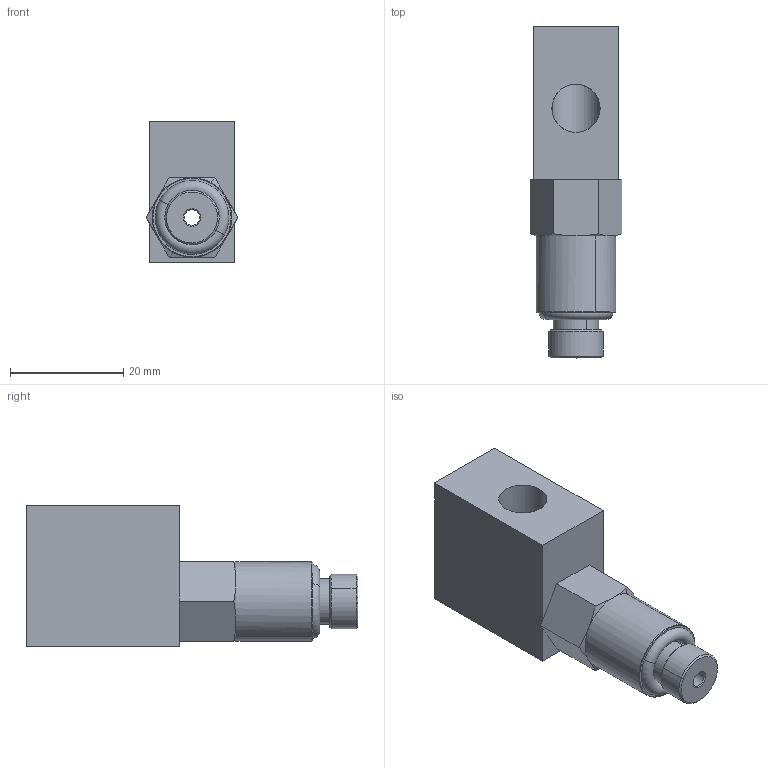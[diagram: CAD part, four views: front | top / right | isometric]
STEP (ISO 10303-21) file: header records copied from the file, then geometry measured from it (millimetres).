
FILE_DESCRIPTION(('CATIA V5 STEP Exchange'),'2;1');
FILE_NAME('C:\Users\Anderj\Desktop\RMF-L.1.stp','2016-11-24T08:37:33+00:00',('none'),('none'),'CATIA Version 5 Release 17 (IN-10)','CATIA V5 STEP AP203','none');
FILE_SCHEMA(('CONFIG_CONTROL_DESIGN'));
Length unit declared in the file: millimetre
Products named in the file (1): RMF-L.1
Bounding box: 16.17 x 58.5 x 25 mm (x, y, z)
Volume: 11988.1 mm3; surface area: 5817.4 mm2
Topology: 2 solids, 2 shells, 58 faces, 138 edges, 87 vertices
Faces by surface type: plane 22, cylinder 16, cone 16, torus 4
Entity records: 1670 total; most frequent: CARTESIAN_POINT 403, ORIENTED_EDGE 272, DIRECTION 194, EDGE_CURVE 136, AXIS2_PLACEMENT_3D 99, VERTEX_POINT 84, EDGE_LOOP 66, CIRCLE 62
